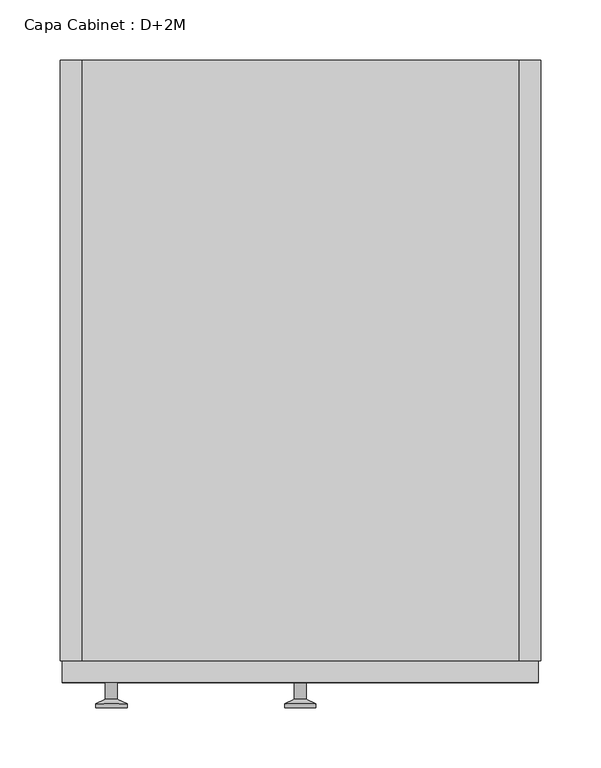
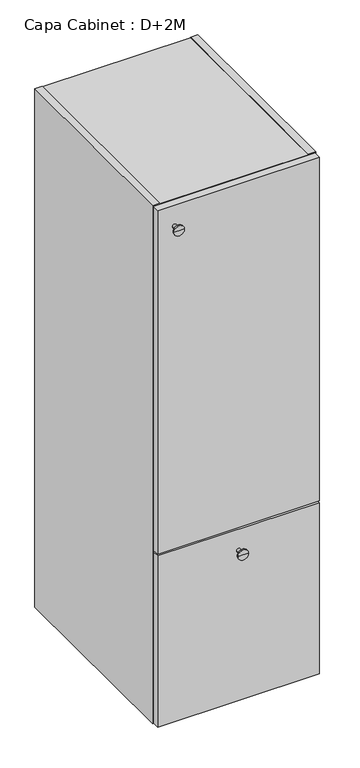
"""IFC4 building model written with IfcOpenShell, lengths in millimetres: furniture geometry, Capa Cabinet : D+2M."""

from ifc_helpers import new_model, si_unit, frame, origin, place, context, project, spatial, polyline, circle_curve, outline, extrude, faceted_brep, source, transform, mapped, element, save
from ifc_brep_helpers import plane_surface, cylinder_surface, revolved_surface, advanced_brep


def capa_cabinet_d_2m_a95fb868(model_context):
    return source(origin(), model_context, "Body", "SolidModel", [
        extrude(outline(polyline([(182.0, 0.0), (-182.0, 0.0), (-182.0, 490.0), (182.0, 490.0), (182.0, 0.0)])), frame((0.0, 0.0, 889.0), z_axis=(0.0, 0.0, 1.0), x_axis=(1.0, 0.0, 0.0)), (0.0, 0.0, 1.0), 14.0),
        extrude(outline(polyline([(182.0, 0.0), (-182.0, 0.0), (-182.0, 490.0), (182.0, 490.0), (182.0, 0.0)])), frame((0.0, 0.0, 441.0), z_axis=(0.0, 0.0, 1.0), x_axis=(1.0, 0.0, 0.0)), (0.0, 0.0, 1.0), 14.0),
        faceted_brep([(-182.0, 500.0, 1344.0), (-182.0, 500.0, 1343.0), (182.0, 500.0, 1343.0), (182.0, 500.0, 1344.0), (200.0, 500.0, 1344.0), (200.0, 500.0, 0.0), (182.0, 500.0, 0.0), (182.0, 500.0, 1.0), (-182.0, 500.0, 1.0), (-182.0, 500.0, 0.0), (-200.0, 500.0, 0.0), (-200.0, 500.0, 1344.0), (182.0, 490.0, 19.0), (182.0, 490.0, 1325.0), (-182.0, 490.0, 1325.0), (-182.0, 490.0, 19.0), (-182.0, 0.0, 1344.0), (-200.0, 0.0, 1344.0), (-200.0, 0.0, 0.0), (-182.0, 0.0, 0.0), (-182.0, 0.0, 1.0), (182.0, 0.0, 1.0), (182.0, 0.0, 0.0), (200.0, 0.0, 0.0), (200.0, 0.0, 1344.0), (182.0, 0.0, 1344.0), (182.0, 0.0, 1343.0), (-182.0, 0.0, 1343.0), (182.0, 0.0, 1325.0), (182.0, 0.0, 19.0), (-182.0, 0.0, 19.0), (-182.0, 0.0, 1325.0)], [[[0, 1, 2, 3, 4, 5, 6, 7, 8, 9, 10, 11]], [[12, 13, 14, 15]], [[16, 17, 18, 19, 20, 21, 22, 23, 24, 25, 26, 27], [28, 29, 30, 31]], [[17, 16, 0, 11]], [[18, 17, 11, 10]], [[23, 22, 6, 5]], [[24, 23, 5, 4]], [[19, 18, 10, 9]], [[20, 19, 9, 8]], [[21, 20, 8, 7]], [[22, 21, 7, 6]], [[25, 24, 4, 3]], [[26, 25, 3, 2]], [[27, 26, 2, 1]], [[16, 27, 1, 0]], [[29, 28, 13, 12]], [[30, 29, 12, 15]], [[31, 30, 15, 14]], [[28, 31, 14, 13]]]),
        extrude(outline(polyline([(198.0, -18.0), (-198.0, -18.0), (-198.0, 0.0), (198.0, 0.0), (198.0, -18.0)])), frame((0.0, 0.0, 2.0), z_axis=(0.0, 0.0, 1.0), x_axis=(1.0, 0.0, 0.0)), (0.0, 0.0, 1.0), 444.0),
        advanced_brep(
        [(0.0, -18.0, 392.0), (5.0, -18.0, 392.0), (-5.0, -18.0, 392.0), (-13.0, -38.997134, 392.0), (13.0, -38.997134, 392.0), (0.0, -38.997134, 392.0), (-13.0, -35.5419417, 392.0), (13.0, -35.5419417, 392.0), (-5.0, -31.8114804, 392.0), (5.0, -31.8114804, 392.0)],
        [
            (0, 1),
            (1, 2, circle_curve(frame((0.0, -18.0, 392.0), z_axis=(0.0, 1.0, 0.0), x_axis=(1.0, 0.0, 0.0)), 5.0)),
            (2, 0),
            (2, 1, circle_curve(frame((0.0, -18.0, 392.0), z_axis=(0.0, 1.0, 0.0), x_axis=(1.0, 0.0, 0.0)), 5.0)),
            (3, 4, circle_curve(frame((0.0, -38.997134, 392.0), z_axis=(0.0, -1.0, 0.0), x_axis=(1.0, 0.0, 0.0)), 13.0)),
            (4, 5),
            (5, 3),
            (4, 3, circle_curve(frame((0.0, -38.997134, 392.0), z_axis=(0.0, -1.0, 0.0), x_axis=(1.0, 0.0, 0.0)), 13.0)),
            (6, 7, circle_curve(frame((0.0, -35.5419417, 392.0), z_axis=(0.0, -1.0, 0.0), x_axis=(1.0, 0.0, 0.0)), 13.0)),
            (7, 4),
            (3, 6),
            (7, 6, circle_curve(frame((0.0, -35.5419417, 392.0), z_axis=(0.0, -1.0, 0.0), x_axis=(1.0, 0.0, 0.0)), 13.0)),
            (8, 9, circle_curve(frame((0.0, -31.8114804, 392.0), z_axis=(0.0, -1.0, 0.0), x_axis=(1.0, 0.0, 0.0)), 5.0)),
            (9, 7),
            (6, 8),
            (9, 8, circle_curve(frame((0.0, -31.8114804, 392.0), z_axis=(0.0, -1.0, 0.0), x_axis=(1.0, 0.0, 0.0)), 5.0)),
            (1, 9),
            (8, 2),
        ],
        [
            plane_surface(frame((0.0, -18.0, 392.0), z_axis=(0.0, 1.0, 0.0), x_axis=(1.0, 0.0, 0.0))),
            plane_surface(frame((0.0, -38.997134, 392.0), z_axis=(0.0, -1.0, 0.0), x_axis=(1.0, 0.0, 0.0))),
            cylinder_surface(frame((0.0, -38.997134, 392.0), z_axis=(0.0, 1.0, 0.0), x_axis=(1.0, 0.0, 0.0)), 13.0),
            revolved_surface(polyline([(13.0, -35.5419417, 392.0), (5.0, -31.8114804, 392.0)]), (0.0, -38.997134, 392.0), (0.0, 1.0, 0.0)),
            cylinder_surface(frame((0.0, -38.997134, 392.0), z_axis=(0.0, 1.0, 0.0), x_axis=(1.0, 0.0, 0.0)), 5.0),
        ],
        [
            (0, [[1, 2, 3]]),
            (0, [[-3, 4, -1]]),
            (1, [[5, 6, 7]]),
            (1, [[8, -7, -6]]),
            (2, [[9, 10, -5, 11]]),
            (2, [[12, -11, -8, -10]]),
            (3, [[13, 14, -9, 15]]),
            (3, [[16, -15, -12, -14]]),
            (4, [[-2, 17, -13, 18]]),
            (4, [[-4, -18, -16, -17]]),
        ],
    ),
        extrude(outline(polyline([(198.0, -18.0), (-198.0, -18.0), (-198.0, 0.0), (198.0, 0.0), (198.0, -18.0)])), frame((0.0, 0.0, 450.0), z_axis=(0.0, 0.0, 1.0), x_axis=(1.0, 0.0, 0.0)), (0.0, 0.0, 1.0), 892.0),
        advanced_brep(
        [(-157.2922597, -18.0, 1288.0), (-152.2922597, -18.0, 1288.0), (-162.2922597, -18.0, 1288.0), (-170.2922597, -38.997134, 1288.0), (-144.2922597, -38.997134, 1288.0), (-157.2922597, -38.997134, 1288.0), (-170.2922597, -35.5419417, 1288.0), (-144.2922597, -35.5419417, 1288.0), (-162.2922597, -31.8114804, 1288.0), (-152.2922597, -31.8114804, 1288.0)],
        [
            (0, 1),
            (1, 2, circle_curve(frame((-157.2922597, -18.0, 1288.0), z_axis=(0.0, 1.0, 0.0), x_axis=(1.0, 0.0, 0.0)), 5.0)),
            (2, 0),
            (2, 1, circle_curve(frame((-157.2922597, -18.0, 1288.0), z_axis=(0.0, 1.0, 0.0), x_axis=(1.0, 0.0, 0.0)), 5.0)),
            (3, 4, circle_curve(frame((-157.2922597, -38.997134, 1288.0), z_axis=(0.0, -1.0, 0.0), x_axis=(1.0, 0.0, 0.0)), 13.0)),
            (4, 5),
            (5, 3),
            (4, 3, circle_curve(frame((-157.2922597, -38.997134, 1288.0), z_axis=(0.0, -1.0, 0.0), x_axis=(1.0, 0.0, 0.0)), 13.0)),
            (6, 7, circle_curve(frame((-157.2922597, -35.5419417, 1288.0), z_axis=(0.0, -1.0, 0.0), x_axis=(1.0, 0.0, 0.0)), 13.0)),
            (7, 4),
            (3, 6),
            (7, 6, circle_curve(frame((-157.2922597, -35.5419417, 1288.0), z_axis=(0.0, -1.0, 0.0), x_axis=(1.0, 0.0, 0.0)), 13.0)),
            (8, 9, circle_curve(frame((-157.2922597, -31.8114804, 1288.0), z_axis=(0.0, -1.0, 0.0), x_axis=(1.0, 0.0, 0.0)), 5.0)),
            (9, 7),
            (6, 8),
            (9, 8, circle_curve(frame((-157.2922597, -31.8114804, 1288.0), z_axis=(0.0, -1.0, 0.0), x_axis=(1.0, 0.0, 0.0)), 5.0)),
            (1, 9),
            (8, 2),
        ],
        [
            plane_surface(frame((-157.2922597, -18.0, 1288.0), z_axis=(0.0, 1.0, 0.0), x_axis=(1.0, 0.0, 0.0))),
            plane_surface(frame((-157.2922597, -38.997134, 1288.0), z_axis=(0.0, -1.0, 0.0), x_axis=(1.0, 0.0, 0.0))),
            cylinder_surface(frame((-157.2922597, -38.997134, 1288.0), z_axis=(0.0, 1.0, 0.0), x_axis=(1.0, 0.0, 0.0)), 13.0),
            revolved_surface(polyline([(-144.2922597, -35.5419417, 1288.0), (-152.2922597, -31.8114804, 1288.0)]), (-157.2922597, -38.997134, 1288.0), (0.0, 1.0, 0.0)),
            cylinder_surface(frame((-157.2922597, -38.997134, 1288.0), z_axis=(0.0, 1.0, 0.0), x_axis=(1.0, 0.0, 0.0)), 5.0),
        ],
        [
            (0, [[1, 2, 3]]),
            (0, [[-3, 4, -1]]),
            (1, [[5, 6, 7]]),
            (1, [[8, -7, -6]]),
            (2, [[9, 10, -5, 11]]),
            (2, [[12, -11, -8, -10]]),
            (3, [[13, 14, -9, 15]]),
            (3, [[16, -15, -12, -14]]),
            (4, [[-2, 17, -13, 18]]),
            (4, [[-4, -18, -16, -17]]),
        ],
    ),
    ])


if __name__ == "__main__":
    model = new_model("IFC4")
    model_context = context("Model", 3, world=origin())
    ifc_project = project(units=[si_unit("LENGTHUNIT", "METRE", prefix="MILLI")], contexts=[model_context])
    site = spatial("IfcSite", under=ifc_project)
    building = spatial("IfcBuilding", under=site)
    placement = place(None, origin())
    capa_cabinet_d_2m_shape = capa_cabinet_d_2m_a95fb868(model_context)
    element("IfcFurniture", 1, ObjectType="Capa Cabinet : D+2M", at=placement, inside=building, context=model_context, shape_type="MappedRepresentation", body=[
        mapped(capa_cabinet_d_2m_shape, transform((0.0, 0.0, 0.0), x_axis=(1.0, 0.0, 0.0), y_axis=(0.0, 1.0, 0.0), z_axis=(0.0, 0.0, 1.0))),
    ])
    save(model, "model.ifc")
